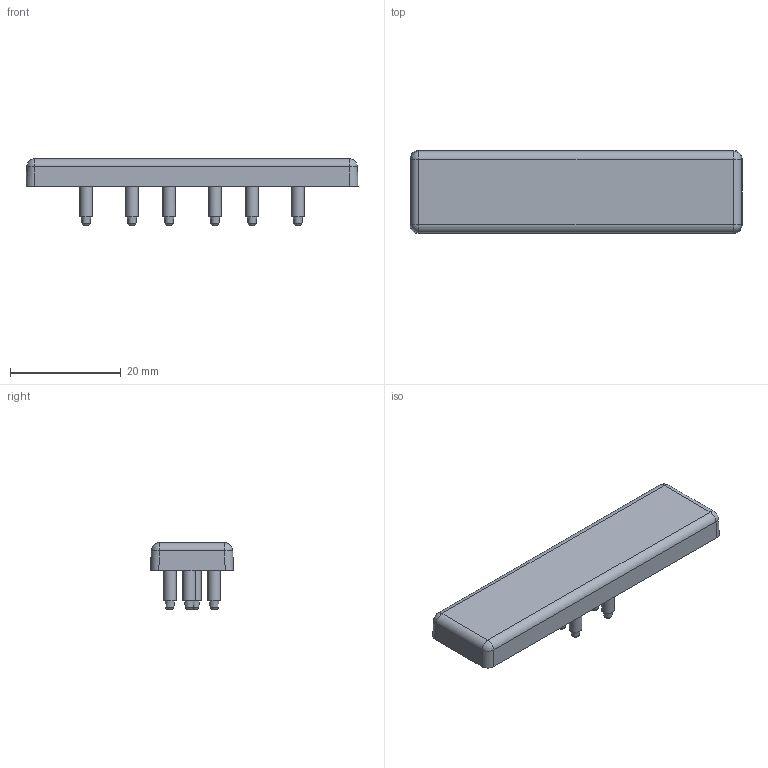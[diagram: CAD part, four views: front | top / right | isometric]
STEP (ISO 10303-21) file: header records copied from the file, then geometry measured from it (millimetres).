
FILE_DESCRIPTION(/* description */ (''),/* implementation_level */ '2;1');
FILE_NAME(/* name */ 'C:\Users\AMS43\Documents\Inventor\AMS\misumi\\X2\30A830F330C930AD30E330C330D7\X0\\ECP-1560-6\ECP-1560-6.iam.stp',/* time_stamp */ '2016-10-03T15:15:21+09:00',/* author */ ('AMS43'),/* organization */ (''),/* preprocessor_version */ 'ST-DEVELOPER v15.2',/* originating_system */ 'Autodesk Inventor 2014',/* authorisation */ '');
FILE_SCHEMA (('AUTOMOTIVE_DESIGN { 1 0 10303 214 3 1 1 }'));
Length unit declared in the file: metre
Products named in the file (18): ECP-1560-6; ECP-1560-6_1; ECP-1560-6_2; ECP-1560-6_3; ECP-1560-6_4; ECP-1560-6_5; ECP-1560-6_6; ECP-1560-6_7; ECP-1560-6_8; ECP-1560-6_9; ECP-1560-6_10; ECP-1560-6_11; ECP-1560-6_12; ECP-1560-6_13; ECP-1560-6_14; ECP-1560-6_15; ECP-1560-6_16
Assembly tree (17 placements, depth 2):
  ECP-1560-6
    ECP-1560-6
    ECP-1560-6_1
    ECP-1560-6_2
    ECP-1560-6_3
    ECP-1560-6_4
    ECP-1560-6_5
    ECP-1560-6_6
    ECP-1560-6_7
    ECP-1560-6_8
    ECP-1560-6_9
    ECP-1560-6_10
    ECP-1560-6_11
    ECP-1560-6_12
    ECP-1560-6_13
    ECP-1560-6_14
    ECP-1560-6_15
    ECP-1560-6_16
Bounding box: 60 x 15 x 12 mm (x, y, z)
Volume: 2862.5 mm3; surface area: 3691.3 mm2
Topology: 17 solids, 17 shells, 126 faces, 221 edges, 131 vertices
Faces by surface type: plane 56, cylinder 38, cone 12, torus 12, sphere 8
Full cylindrical faces by diameter (mm): 2.3 x12
Entity records: 3199 total; most frequent: DIRECTION 584, CARTESIAN_POINT 583, ORIENTED_EDGE 336, AXIS2_PLACEMENT_3D 261, EDGE_LOOP 172, EDGE_CURVE 168, FACE_OUTER_BOUND 126, ADVANCED_FACE 126
